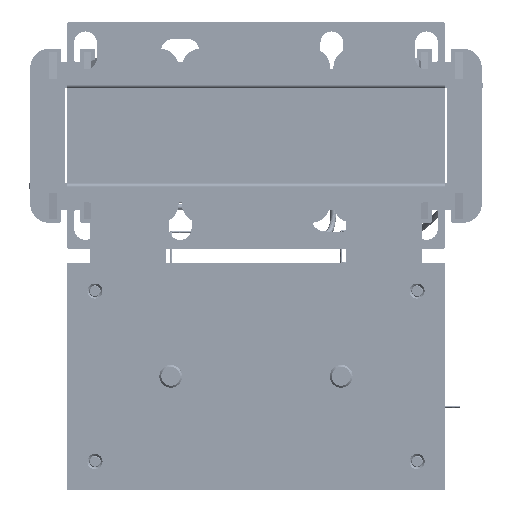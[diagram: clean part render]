
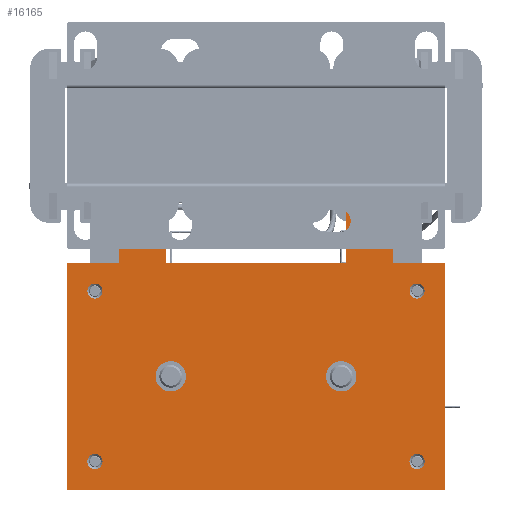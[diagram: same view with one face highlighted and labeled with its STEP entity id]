
A CAD part, front view. The second image highlights one B-rep face of the part: STEP entity #16165.
In plain terms, the highlighted planar face has unit normal (0, -1, 0) as drawn and (0, 0, 1) by its records, which use the part's own axes.
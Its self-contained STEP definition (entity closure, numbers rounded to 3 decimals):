
#16165=ADVANCED_FACE('',(#33295,#33297,#33299,#33301,#33303,#33305,#33307),#33309,
.T.);
#33295=FACE_BOUND('',#33296,.T.);
#33296=EDGE_LOOP('',(#53128,#53129,#53130,#53131,#53132,#53133,#53134,#53135,#53136,
#53137,#53138,#53139));
#33297=FACE_BOUND('',#33298,.T.);
#33298=EDGE_LOOP('',(#53140));
#33299=FACE_BOUND('',#33300,.T.);
#33300=EDGE_LOOP('',(#53141));
#33301=FACE_BOUND('',#33302,.T.);
#33302=EDGE_LOOP('',(#53142));
#33303=FACE_BOUND('',#33304,.T.);
#33304=EDGE_LOOP('',(#53143));
#33305=FACE_BOUND('',#33306,.T.);
#33306=EDGE_LOOP('',(#53144));
#33307=FACE_BOUND('',#33308,.T.);
#33308=EDGE_LOOP('',(#53145));
#33309=PLANE('',#33310);
#33310=AXIS2_PLACEMENT_3D('',#33311,#33312,#33313);
#33311=CARTESIAN_POINT('',(0.,0.,3.));
#33312=DIRECTION('',(0.,0.,1.));
#33313=DIRECTION('',(1.,0.,0.));
#53128=ORIENTED_EDGE('',*,*,#59683,.T.);
#53129=ORIENTED_EDGE('',*,*,#59687,.T.);
#53130=ORIENTED_EDGE('',*,*,#59689,.T.);
#53131=ORIENTED_EDGE('',*,*,#59674,.T.);
#53132=ORIENTED_EDGE('',*,*,#59693,.T.);
#53133=ORIENTED_EDGE('',*,*,#59694,.T.);
#53134=ORIENTED_EDGE('',*,*,#59695,.T.);
#53135=ORIENTED_EDGE('',*,*,#59680,.T.);
#53136=ORIENTED_EDGE('',*,*,#59696,.T.);
#53137=ORIENTED_EDGE('',*,*,#59697,.T.);
#53138=ORIENTED_EDGE('',*,*,#59698,.T.);
#53139=ORIENTED_EDGE('',*,*,#59690,.T.);
#53140=ORIENTED_EDGE('',*,*,#59665,.F.);
#53141=ORIENTED_EDGE('',*,*,#59666,.F.);
#53142=ORIENTED_EDGE('',*,*,#59667,.F.);
#53143=ORIENTED_EDGE('',*,*,#59668,.F.);
#53144=ORIENTED_EDGE('',*,*,#59669,.F.);
#53145=ORIENTED_EDGE('',*,*,#59671,.F.);
#59665=EDGE_CURVE('',#66238,#66238,#66239,.T.);
#59666=EDGE_CURVE('',#66240,#66240,#66241,.T.);
#59667=EDGE_CURVE('',#66242,#66242,#66243,.T.);
#59668=EDGE_CURVE('',#66244,#66244,#66245,.T.);
#59669=EDGE_CURVE('',#66246,#66246,#66247,.T.);
#59671=EDGE_CURVE('',#66250,#66250,#66251,.T.);
#59674=EDGE_CURVE('',#66257,#66254,#66258,.T.);
#59680=EDGE_CURVE('',#66262,#66267,#66269,.T.);
#59683=EDGE_CURVE('',#66275,#66273,#66276,.T.);
#59687=EDGE_CURVE('',#66273,#66280,#66282,.T.);
#59689=EDGE_CURVE('',#66280,#66257,#66284,.T.);
#59690=EDGE_CURVE('',#66285,#66275,#66286,.T.);
#59693=EDGE_CURVE('',#66254,#66290,#66291,.T.);
#59694=EDGE_CURVE('',#66290,#66292,#66293,.T.);
#59695=EDGE_CURVE('',#66292,#66262,#66294,.T.);
#59696=EDGE_CURVE('',#66267,#66295,#66296,.T.);
#59697=EDGE_CURVE('',#66295,#66297,#66298,.T.);
#59698=EDGE_CURVE('',#66297,#66285,#66299,.T.);
#66238=VERTEX_POINT('',#86554);
#66239=CIRCLE('',#86555,4.);
#66240=VERTEX_POINT('',#86559);
#66241=CIRCLE('',#86560,4.);
#66242=VERTEX_POINT('',#86564);
#66243=CIRCLE('',#86565,4.);
#66244=VERTEX_POINT('',#86569);
#66245=CIRCLE('',#86570,4.);
#66246=VERTEX_POINT('',#86574);
#66247=CIRCLE('',#86575,8.);
#66250=VERTEX_POINT('',#86584);
#66251=CIRCLE('',#86585,8.);
#66254=VERTEX_POINT('',#86594);
#66257=VERTEX_POINT('',#86599);
#66258=LINE('',#86600,#86601);
#66262=VERTEX_POINT('',#86610);
#66267=VERTEX_POINT('',#86619);
#66269=LINE('',#86623,#86624);
#66273=VERTEX_POINT('',#86631);
#66275=VERTEX_POINT('',#86635);
#66276=LINE('',#86636,#86637);
#66280=VERTEX_POINT('',#86646);
#66282=LINE('',#86650,#86651);
#66284=LINE('',#86656,#86657);
#66285=VERTEX_POINT('',#86659);
#66286=LINE('',#86660,#86661);
#66290=VERTEX_POINT('',#86670);
#66291=LINE('',#86671,#86672);
#66292=VERTEX_POINT('',#86674);
#66293=LINE('',#86675,#86676);
#66294=LINE('',#86678,#86679);
#66295=VERTEX_POINT('',#86681);
#66296=LINE('',#86682,#86683);
#66297=VERTEX_POINT('',#86685);
#66298=LINE('',#86686,#86687);
#66299=LINE('',#86689,#86690);
#86554=CARTESIAN_POINT('',(81.,-45.,3.));
#86555=AXIS2_PLACEMENT_3D('',#86556,#86557,#86558);
#86556=CARTESIAN_POINT('',(85.,-45.,3.));
#86557=DIRECTION('',(0.,0.,1.));
#86558=DIRECTION('',(1.,0.,0.));
#86559=CARTESIAN_POINT('',(81.,45.,3.));
#86560=AXIS2_PLACEMENT_3D('',#86561,#86562,#86563);
#86561=CARTESIAN_POINT('',(85.,45.,3.));
#86562=DIRECTION('',(0.,0.,1.));
#86563=DIRECTION('',(1.,0.,0.));
#86564=CARTESIAN_POINT('',(-89.,-45.,3.));
#86565=AXIS2_PLACEMENT_3D('',#86566,#86567,#86568);
#86566=CARTESIAN_POINT('',(-85.,-45.,3.));
#86567=DIRECTION('',(0.,0.,1.));
#86568=DIRECTION('',(1.,0.,0.));
#86569=CARTESIAN_POINT('',(-89.,45.,3.));
#86570=AXIS2_PLACEMENT_3D('',#86571,#86572,#86573);
#86571=CARTESIAN_POINT('',(-85.,45.,3.));
#86572=DIRECTION('',(0.,0.,1.));
#86573=DIRECTION('',(1.,0.,0.));
#86574=CARTESIAN_POINT('',(-37.,0.,3.));
#86575=AXIS2_PLACEMENT_3D('',#86576,#86577,#86578);
#86576=CARTESIAN_POINT('',(-45.,0.,3.));
#86577=DIRECTION('',(0.,0.,1.));
#86578=DIRECTION('',(-1.,0.,0.));
#86584=CARTESIAN_POINT('',(53.,0.,3.));
#86585=AXIS2_PLACEMENT_3D('',#86586,#86587,#86588);
#86586=CARTESIAN_POINT('',(45.,0.,3.));
#86587=DIRECTION('',(0.,0.,1.));
#86588=DIRECTION('',(-1.,0.,0.));
#86594=CARTESIAN_POINT('',(-72.5,-60.,3.));
#86599=CARTESIAN_POINT('',(-100.,-60.,3.));
#86600=CARTESIAN_POINT('',(-100.,-60.,3.));
#86601=VECTOR('',#86602,1.);
#86602=DIRECTION('',(1.,0.,0.));
#86610=CARTESIAN_POINT('',(-47.5,-60.,3.));
#86619=CARTESIAN_POINT('',(47.5,-60.,3.));
#86623=CARTESIAN_POINT('',(-47.5,-60.,3.));
#86624=VECTOR('',#86625,1.);
#86625=DIRECTION('',(1.,0.,0.));
#86631=CARTESIAN_POINT('',(100.,60.,3.));
#86635=CARTESIAN_POINT('',(100.,-60.,3.));
#86636=CARTESIAN_POINT('',(100.,-60.,3.));
#86637=VECTOR('',#86638,1.);
#86638=DIRECTION('',(0.,1.,0.));
#86646=CARTESIAN_POINT('',(-100.,60.,3.));
#86650=CARTESIAN_POINT('',(100.,60.,3.));
#86651=VECTOR('',#86652,1.);
#86652=DIRECTION('',(-1.,0.,0.));
#86656=CARTESIAN_POINT('',(-100.,60.,3.));
#86657=VECTOR('',#86658,1.);
#86658=DIRECTION('',(0.,-1.,0.));
#86659=CARTESIAN_POINT('',(72.5,-60.,3.));
#86660=CARTESIAN_POINT('',(72.5,-60.,3.));
#86661=VECTOR('',#86662,1.);
#86662=DIRECTION('',(1.,0.,0.));
#86670=CARTESIAN_POINT('',(-72.5,-100.,3.));
#86671=CARTESIAN_POINT('',(-72.5,-60.,3.));
#86672=VECTOR('',#86673,1.);
#86673=DIRECTION('',(0.,-1.,0.));
#86674=CARTESIAN_POINT('',(-47.5,-100.,3.));
#86675=CARTESIAN_POINT('',(-72.5,-100.,3.));
#86676=VECTOR('',#86677,1.);
#86677=DIRECTION('',(1.,0.,0.));
#86678=CARTESIAN_POINT('',(-47.5,-100.,3.));
#86679=VECTOR('',#86680,1.);
#86680=DIRECTION('',(0.,1.,0.));
#86681=CARTESIAN_POINT('',(47.5,-100.,3.));
#86682=CARTESIAN_POINT('',(47.5,-60.,3.));
#86683=VECTOR('',#86684,1.);
#86684=DIRECTION('',(0.,-1.,0.));
#86685=CARTESIAN_POINT('',(72.5,-100.,3.));
#86686=CARTESIAN_POINT('',(47.5,-100.,3.));
#86687=VECTOR('',#86688,1.);
#86688=DIRECTION('',(1.,0.,0.));
#86689=CARTESIAN_POINT('',(72.5,-100.,3.));
#86690=VECTOR('',#86691,1.);
#86691=DIRECTION('',(0.,1.,0.));
